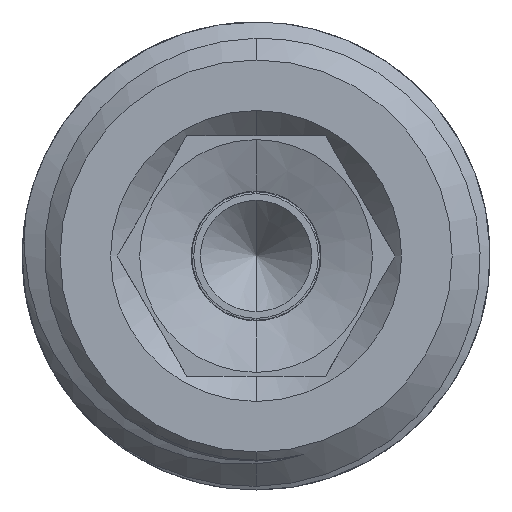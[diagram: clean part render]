
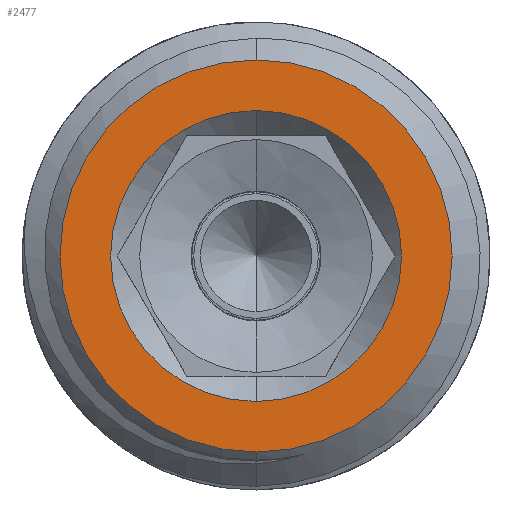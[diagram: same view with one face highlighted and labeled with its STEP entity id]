
A CAD part, left-side view. The second image highlights one B-rep face of the part: STEP entity #2477.
In plain terms, the highlighted planar face has unit normal (-1, 0, 0).
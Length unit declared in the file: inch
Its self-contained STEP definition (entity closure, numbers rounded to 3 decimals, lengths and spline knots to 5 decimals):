
#183 = VERTEX_POINT ( 'NONE', #1940 ) ;
#349 = DIRECTION ( 'NONE',  ( -1., 0., 0. ) ) ;
#500 = DIRECTION ( 'NONE',  ( 1., 0., 0. ) ) ;
#619 = AXIS2_PLACEMENT_3D ( 'NONE', #1669, #2465, #649 ) ;
#634 = DIRECTION ( 'NONE',  ( -1., 0., 0. ) ) ;
#649 = DIRECTION ( 'NONE',  ( 0., 0., 1. ) ) ;
#750 = FACE_OUTER_BOUND ( 'NONE', #1829, .T. ) ;
#778 = CARTESIAN_POINT ( 'NONE',  ( 0., 0., 0. ) ) ;
#980 = CARTESIAN_POINT ( 'NONE',  ( 0., 0., -0.155 ) ) ;
#1125 = CARTESIAN_POINT ( 'NONE',  ( 0., 0., 0. ) ) ;
#1164 = EDGE_CURVE ( 'NONE', #183, #2798, #1235, .T. ) ;
#1235 = CIRCLE ( 'NONE', #2869, 0.155 ) ;
#1383 = DIRECTION ( 'NONE',  ( 0., 0., 1. ) ) ;
#1390 = AXIS2_PLACEMENT_3D ( 'NONE', #2556, #349, #1660 ) ;
#1520 = CARTESIAN_POINT ( 'NONE',  ( 0., 0., 0. ) ) ;
#1535 = EDGE_CURVE ( 'NONE', #2495, #2888, #3031, .T. ) ;
#1660 = DIRECTION ( 'NONE',  ( 0., 0., -1. ) ) ;
#1669 = CARTESIAN_POINT ( 'NONE',  ( 0., 0., 0. ) ) ;
#1681 = CIRCLE ( 'NONE', #1390, 0.155 ) ;
#1773 = CARTESIAN_POINT ( 'NONE',  ( 0., 0., 0.115 ) ) ;
#1829 = EDGE_LOOP ( 'NONE', ( #1983, #2012 ) ) ;
#1835 = DIRECTION ( 'NONE',  ( 0., 0., -1. ) ) ;
#1928 = EDGE_CURVE ( 'NONE', #2798, #183, #1681, .T. ) ;
#1940 = CARTESIAN_POINT ( 'NONE',  ( 0., 0., 0.155 ) ) ;
#1957 = AXIS2_PLACEMENT_3D ( 'NONE', #1125, #634, #1383 ) ;
#1983 = ORIENTED_EDGE ( 'NONE', *, *, #1928, .T. ) ;
#2012 = ORIENTED_EDGE ( 'NONE', *, *, #1164, .T. ) ;
#2150 = CIRCLE ( 'NONE', #619, 0.115 ) ;
#2173 = CARTESIAN_POINT ( 'NONE',  ( 0., 0., -0.115 ) ) ;
#2365 = DIRECTION ( 'NONE',  ( -1., 0., 0. ) ) ;
#2377 = ORIENTED_EDGE ( 'NONE', *, *, #3157, .F. ) ;
#2465 = DIRECTION ( 'NONE',  ( -1., 0., 0. ) ) ;
#2477 = ADVANCED_FACE ( 'NONE', ( #3125, #750 ), #2922, .F. ) ;
#2495 = VERTEX_POINT ( 'NONE', #1773 ) ;
#2543 = AXIS2_PLACEMENT_3D ( 'NONE', #1520, #500, #2867 ) ;
#2556 = CARTESIAN_POINT ( 'NONE',  ( 0., 0., 0. ) ) ;
#2631 = ORIENTED_EDGE ( 'NONE', *, *, #1535, .F. ) ;
#2798 = VERTEX_POINT ( 'NONE', #980 ) ;
#2867 = DIRECTION ( 'NONE',  ( 0., 0., -1. ) ) ;
#2869 = AXIS2_PLACEMENT_3D ( 'NONE', #778, #2365, #1835 ) ;
#2888 = VERTEX_POINT ( 'NONE', #2173 ) ;
#2922 = PLANE ( 'NONE',  #2543 ) ;
#3031 = CIRCLE ( 'NONE', #1957, 0.115 ) ;
#3052 = EDGE_LOOP ( 'NONE', ( #2631, #2377 ) ) ;
#3125 = FACE_BOUND ( 'NONE', #3052, .T. ) ;
#3157 = EDGE_CURVE ( 'NONE', #2888, #2495, #2150, .T. ) ;
